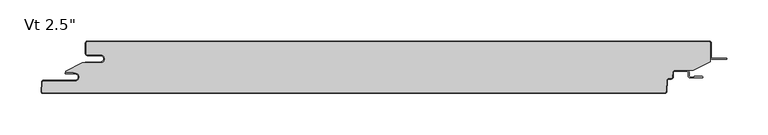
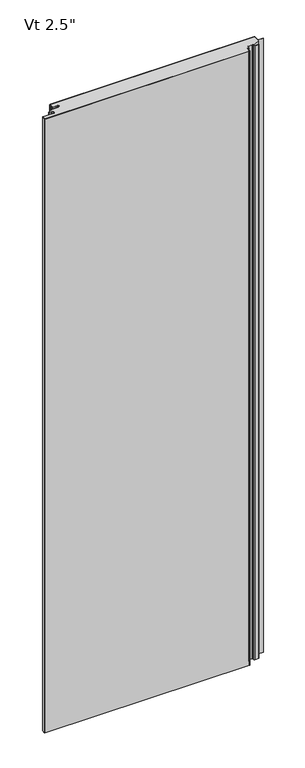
"""IFC4 building model written with IfcOpenShell, lengths in millimetres: plate geometry."""

from ifc_helpers import new_model, si_unit, point, frame, frame_2d, origin, origin_with_axes, place, context, project, spatial, polyline, circle_curve, ellipse_curve, trimmed, segment, composite_curve, outline, extrude, source, transform, mapped, element, save
from ifc_brep_helpers import plane_surface, cylinder_surface, revolved_surface, extruded_surface, advanced_brep


def plate_0934c7cf(model_context):
    return source(origin(), model_context, "Body", "SolidModel", [
        extrude(outline(composite_curve([segment(polyline([(-361.94375, -16.4625), (-377.81875, -16.4625)]), True, "CONTINUOUS"), segment(trimmed(circle_curve(frame_2d((-377.81875, -15.08125)), 1.38125), [point((-377.81875, -16.4625))], [point((-379.2, -15.08125))], False, "CARTESIAN"), True, "CONTINUOUS"), segment(polyline([(-379.2, -15.08125), (-379.2, -2.38125)]), True, "CONTINUOUS"), segment(trimmed(circle_curve(frame_2d((-377.81875, -2.38125)), 1.38125), [point((-379.2, -2.38125))], [point((-377.81875, -1.0))], False, "CARTESIAN"), True, "CONTINUOUS"), segment(polyline([(-377.81875, -1.0), (377.83125, -1.0)]), True, "CONTINUOUS"), segment(trimmed(circle_curve(frame_2d((377.83125, -2.38125)), 1.38125), [point((377.83125, -1.0))], [point((379.2125, -2.38125))], False, "CARTESIAN"), True, "CONTINUOUS"), segment(polyline([(379.2125, -2.38125), (379.2125, -24.9057308), (358.3955434, -35.5125), (335.9540783, -35.5125)]), True, "CONTINUOUS"), segment(trimmed(circle_curve(frame_2d((335.9540783, -38.1)), 2.5875), [point((335.9540783, -35.5125))], [point((333.3701244, -37.9645807))], True, "CARTESIAN"), True, "CONTINUOUS"), segment(polyline([(333.3701244, -37.9645807), (333.0680481, -43.728539)]), True, "CONTINUOUS"), segment(trimmed(circle_curve(frame_2d((331.6886911, -43.65625)), 1.38125), [point((333.0680481, -43.728539))], [point((331.6886911, -45.0375))], False, "CARTESIAN"), True, "CONTINUOUS"), segment(polyline([(331.6886911, -45.0375), (328.6448847, -45.0375)]), True, "CONTINUOUS"), segment(trimmed(circle_curve(frame_2d((328.6448847, -47.625)), 2.5875), [point((328.6448847, -45.0375))], [point((326.0609307, -47.4895807))], True, "CARTESIAN"), True, "CONTINUOUS"), segment(polyline([(326.0609307, -47.4895807), (325.3428677, -61.191039)]), True, "CONTINUOUS"), segment(trimmed(circle_curve(frame_2d((323.9635107, -61.11875)), 1.38125), [point((325.3428677, -61.191039))], [point((323.9635107, -62.5))], False, "CARTESIAN"), True, "CONTINUOUS"), segment(polyline([(323.9635107, -62.5), (-431.6799535, -62.5)]), True, "CONTINUOUS"), segment(trimmed(circle_curve(frame_2d((-431.6799535, -61.11875)), 1.38125), [point((-431.6799535, -62.5))], [point((-433.0593106, -61.046461))], False, "CARTESIAN"), True, "CONTINUOUS"), segment(polyline([(-433.0593106, -61.046461), (-432.4769291, -49.933961)]), True, "CONTINUOUS"), segment(trimmed(circle_curve(frame_2d((-431.0975721, -50.00625)), 1.38125), [point((-432.4769291, -49.933961))], [point((-431.0975721, -48.625))], False, "CARTESIAN"), True, "CONTINUOUS"), segment(polyline([(-431.0975721, -48.625), (-392.9142674, -48.625)]), True, "CONTINUOUS"), segment(trimmed(circle_curve(frame_2d((-392.9142674, -43.65625)), 4.96875), [point((-392.9142674, -48.625))], [point((-392.9142674, -38.6875))], True, "CARTESIAN"), True, "CONTINUOUS"), segment(polyline([(-392.9142674, -38.6875), (-394.5017674, -38.89375), (-394.5017674, -38.1), (-404.0125, -38.1), (-404.0125, -36.5326309), (-384.1260922, -26.4), (-361.94375, -26.4)]), True, "CONTINUOUS"), segment(trimmed(circle_curve(frame_2d((-361.94375, -21.43125)), 4.96875), [point((-361.94375, -26.4))], [point((-361.94375, -16.4625))], True, "CARTESIAN"), True, "CONTINUOUS")], self_intersect=False)), origin_with_axes(), (0.0, 0.0, 1.0), 2400.0),
        extrude(outline(composite_curve([segment(polyline([(-380.2, -25.4), (-361.94375, -25.4)]), True, "CONTINUOUS"), segment(trimmed(circle_curve(frame_2d((-361.94375, -21.43125)), 3.96875), [point((-361.94375, -25.4))], [point((-361.94375, -17.4625))], True, "CARTESIAN"), True, "CONTINUOUS"), segment(polyline([(-361.94375, -17.4625), (-377.81875, -17.4625)]), True, "CONTINUOUS"), segment(trimmed(circle_curve(frame_2d((-377.81875, -15.08125)), 2.38125), [point((-377.81875, -17.4625))], [point((-380.2, -15.08125))], False, "CARTESIAN"), True, "CONTINUOUS"), segment(polyline([(-380.2, -15.08125), (-380.2, -2.38125)]), True, "CONTINUOUS"), segment(trimmed(circle_curve(frame_2d((-377.81875, -2.38125)), 2.38125), [point((-380.2, -2.38125))], [point((-377.81875, 0.0))], False, "CARTESIAN"), True, "CONTINUOUS"), segment(polyline([(-377.81875, 0.0), (377.83125, 0.0)]), True, "CONTINUOUS"), segment(trimmed(circle_curve(frame_2d((377.83125, -2.38125)), 2.38125), [point((377.83125, 0.0))], [point((380.2125, -2.38125))], False, "CARTESIAN"), True, "CONTINUOUS"), segment(polyline([(380.2125, -2.38125), (380.2125, -19.446875)]), True, "CONTINUOUS"), segment(trimmed(circle_curve(frame_2d((381.8, -19.446875)), 1.5875), [point((380.2125, -19.446875))], [point((381.8, -21.034375))], True, "CARTESIAN"), True, "CONTINUOUS"), segment(polyline([(381.8, -21.034375), (399.2625, -21.034375), (399.2625, -22.034375), (381.8, -22.034375)]), True, "CONTINUOUS"), segment(trimmed(circle_curve(frame_2d((381.8, -19.446875)), 2.5875), [point((381.8, -22.034375))], [point((379.2125, -19.446875))], False, "CARTESIAN"), True, "CONTINUOUS"), segment(polyline([(379.2125, -19.446875), (379.2125, -2.38125)]), True, "CONTINUOUS"), segment(trimmed(circle_curve(frame_2d((377.83125, -2.38125)), 1.38125), [point((379.2125, -2.38125))], [point((377.83125, -1.0))], True, "CARTESIAN"), True, "CONTINUOUS"), segment(polyline([(377.83125, -1.0), (-377.81875, -1.0)]), True, "CONTINUOUS"), segment(trimmed(circle_curve(frame_2d((-377.81875, -2.38125)), 1.38125), [point((-377.81875, -1.0))], [point((-379.2, -2.38125))], True, "CARTESIAN"), True, "CONTINUOUS"), segment(polyline([(-379.2, -2.38125), (-379.2, -15.08125)]), True, "CONTINUOUS"), segment(trimmed(circle_curve(frame_2d((-377.81875, -15.08125)), 1.38125), [point((-379.2, -15.08125))], [point((-377.81875, -16.4625))], True, "CARTESIAN"), True, "CONTINUOUS"), segment(polyline([(-377.81875, -16.4625), (-361.94375, -16.4625)]), True, "CONTINUOUS"), segment(trimmed(circle_curve(frame_2d((-361.94375, -21.43125)), 4.96875), [point((-361.94375, -16.4625))], [point((-361.94375, -26.4))], False, "CARTESIAN"), True, "CONTINUOUS"), segment(polyline([(-361.94375, -26.4), (-380.2, -26.4), (-380.2, -25.4)]), True, "CONTINUOUS")], self_intersect=False)), origin_with_axes(), (0.0, 0.0, 1.0), 2400.0),
        advanced_brep(
        [(-404.2252049, -38.1, 2400.0), (-404.2252049, -39.6875, 2400.0), (-392.9142674, -39.6875, 2400.0), (-392.9142674, -47.625, 2400.0), (-431.0975721, -47.625, 2400.0), (-433.4755586, -49.881625, 2400.0), (-434.0579401, -60.994125, 2400.0), (-431.6799535, -63.5, 2400.0), (323.9635107, -63.5, 2400.0), (326.3414973, -61.243375, 2400.0), (327.0595603, -47.5419167, 2400.0), (328.6448847, -46.0375, 2400.0), (331.6886911, -46.0375, 2400.0), (334.0666776, -43.780875, 2400.0), (334.3687539, -38.0169167, 2400.0), (335.9540783, -36.5125, 2400.0), (350.8294826, -36.5125, 2400.0), (352.4169826, -38.1, 2400.0), (352.4169826, -42.2671875, 2400.0), (354.7982326, -44.6484375, 2400.0), (369.2898532, -44.6484375, 2400.0), (369.2898532, -42.8546875, 2400.0), (359.5607326, -42.8546875, 2400.0), (359.5607326, -43.6484375, 2400.0), (354.7982326, -43.6484375, 2400.0), (353.4169826, -42.2671875, 2400.0), (353.4169826, -38.1, 2400.0), (350.8294826, -35.5125, 2400.0), (335.9540783, -35.5125, 2400.0), (333.3701244, -37.9645807, 2400.0), (333.0680481, -43.728539, 2400.0), (331.6886911, -45.0375, 2400.0), (328.6448847, -45.0375, 2400.0), (326.0609307, -47.4895807, 2400.0), (325.3428677, -61.191039, 2400.0), (323.9635107, -62.5, 2400.0), (-431.6799535, -62.5, 2400.0), (-433.0593106, -61.046461, 2400.0), (-432.4769291, -49.933961, 2400.0), (-431.0975721, -48.625, 2400.0), (-392.9142674, -48.625, 2400.0), (-392.9142674, -38.6875, 2400.0), (-394.5017674, -38.89375, 2400.0), (-394.5017674, -38.1, 2400.0), (-404.2252049, -38.1, 0.0), (-394.5017674, -38.1, 0.0), (-394.5017674, -38.89375, 0.0), (-392.9142674, -38.6875, 0.0), (-392.9142674, -48.625, 0.0), (-431.0975721, -48.625, 0.0), (-432.4769291, -49.933961, 0.0), (-433.0593106, -61.046461, 0.0), (-431.6799535, -62.5, 0.0), (323.9635107, -62.5, 0.0), (325.3428677, -61.191039, 0.0), (326.0609307, -47.4895807, 0.0), (328.6448847, -45.0375, 0.0), (331.6886911, -45.0375, 0.0), (333.0680481, -43.728539, 0.0), (333.3701244, -37.9645807, 0.0), (335.9540783, -35.5125, 0.0), (350.8294826, -35.5125, 0.0), (353.4169826, -38.1, 0.0), (353.4169826, -42.2671875, 0.0), (354.7982326, -43.6484375, 0.0), (359.5607326, -43.6484375, 0.0), (359.5607326, -42.8546875, 0.0), (369.2898532, -42.8546875, 0.0), (369.2898532, -44.6484375, 0.0), (354.7982326, -44.6484375, 0.0), (352.4169826, -42.2671875, 0.0), (352.4169826, -38.1, 0.0), (350.8294826, -36.5125, 0.0), (335.9540783, -36.5125, 0.0), (334.3687539, -38.0169167, 0.0), (334.0666776, -43.780875, 0.0), (331.6886911, -46.0375, 0.0), (328.6448847, -46.0375, 0.0), (327.0595603, -47.5419167, 0.0), (326.3414973, -61.243375, 0.0), (323.9635107, -63.5, 0.0), (-431.6799535, -63.5, 0.0), (-434.0579401, -60.994125, 0.0), (-433.4755586, -49.881625, 0.0), (-431.0975721, -47.625, 0.0), (-392.9142674, -47.625, 0.0), (-392.9142674, -39.6875, 0.0), (-404.2252049, -39.6875, 0.0)],
        [
            (0, 1, circle_curve(frame((-404.2252049, -38.89375, 2400.0), z_axis=(0.0, 0.0, 1.0), x_axis=(1.0, 0.0, 0.0)), 0.79375)),
            (1, 2),
            (2, 3, circle_curve(frame((-392.9142674, -43.65625, 2400.0), z_axis=(0.0, 0.0, -1.0), x_axis=(1.0, 0.0, 0.0)), 3.96875)),
            (3, 4),
            (4, 5, circle_curve(frame((-431.0975721, -50.00625, 2400.0), z_axis=(0.0, 0.0, 1.0), x_axis=(1.0, 0.0, 0.0)), 2.38125)),
            (5, 6),
            (6, 7, circle_curve(frame((-431.6799535, -61.11875, 2400.0), z_axis=(0.0, 0.0, 1.0), x_axis=(1.0, 0.0, 0.0)), 2.38125)),
            (7, 8),
            (8, 9, circle_curve(frame((323.9635107, -61.11875, 2400.0), z_axis=(0.0, 0.0, 1.0), x_axis=(1.0, 0.0, 0.0)), 2.38125)),
            (9, 10),
            (10, 11, circle_curve(frame((328.6448847, -47.625, 2400.0), z_axis=(0.0, 0.0, -1.0), x_axis=(1.0, 0.0, 0.0)), 1.5875)),
            (11, 12),
            (12, 13, circle_curve(frame((331.6886911, -43.65625, 2400.0), z_axis=(0.0, 0.0, 1.0), x_axis=(1.0, 0.0, 0.0)), 2.38125)),
            (13, 14),
            (14, 15, circle_curve(frame((335.9540783, -38.1, 2400.0), z_axis=(0.0, 0.0, -1.0), x_axis=(1.0, 0.0, 0.0)), 1.5875)),
            (15, 16),
            (16, 17, circle_curve(frame((350.8294826, -38.1, 2400.0), z_axis=(0.0, 0.0, -1.0), x_axis=(1.0, 0.0, 0.0)), 1.5875)),
            (17, 18),
            (18, 19, circle_curve(frame((354.7982326, -42.2671875, 2400.0), z_axis=(0.0, 0.0, 1.0), x_axis=(1.0, 0.0, 0.0)), 2.38125)),
            (19, 20),
            (20, 21, ellipse_curve(frame((369.2898532, -43.7515625, 2400.0), z_axis=(0.0, 0.0, 1.0), x_axis=(0.0, 1.0, 0.0)), 0.896875, 0.7852275)),
            (21, 22),
            (22, 23),
            (23, 24),
            (24, 25, circle_curve(frame((354.7982326, -42.2671875, 2400.0), z_axis=(0.0, 0.0, -1.0), x_axis=(1.0, 0.0, 0.0)), 1.38125)),
            (25, 26),
            (26, 27, circle_curve(frame((350.8294826, -38.1, 2400.0), z_axis=(0.0, 0.0, 1.0), x_axis=(1.0, 0.0, 0.0)), 2.5875)),
            (27, 28),
            (28, 29, circle_curve(frame((335.9540783, -38.1, 2400.0), z_axis=(0.0, 0.0, 1.0), x_axis=(1.0, 0.0, 0.0)), 2.5875)),
            (29, 30),
            (30, 31, circle_curve(frame((331.6886911, -43.65625, 2400.0), z_axis=(0.0, 0.0, -1.0), x_axis=(1.0, 0.0, 0.0)), 1.38125)),
            (31, 32),
            (32, 33, circle_curve(frame((328.6448847, -47.625, 2400.0), z_axis=(0.0, 0.0, 1.0), x_axis=(1.0, 0.0, 0.0)), 2.5875)),
            (33, 34),
            (34, 35, circle_curve(frame((323.9635107, -61.11875, 2400.0), z_axis=(0.0, 0.0, -1.0), x_axis=(1.0, 0.0, 0.0)), 1.38125)),
            (35, 36),
            (36, 37, circle_curve(frame((-431.6799535, -61.11875, 2400.0), z_axis=(0.0, 0.0, -1.0), x_axis=(1.0, 0.0, 0.0)), 1.38125)),
            (37, 38),
            (38, 39, circle_curve(frame((-431.0975721, -50.00625, 2400.0), z_axis=(0.0, 0.0, -1.0), x_axis=(1.0, 0.0, 0.0)), 1.38125)),
            (39, 40),
            (40, 41, circle_curve(frame((-392.9142674, -43.65625, 2400.0), z_axis=(0.0, 0.0, 1.0), x_axis=(1.0, 0.0, 0.0)), 4.96875)),
            (41, 42),
            (42, 43),
            (43, 0),
            (44, 45),
            (45, 46),
            (46, 47),
            (47, 48, circle_curve(frame((-392.9142674, -43.65625, 0.0), z_axis=(0.0, 0.0, -1.0), x_axis=(1.0, 0.0, 0.0)), 4.96875)),
            (48, 49),
            (49, 50, circle_curve(frame((-431.0975721, -50.00625, 0.0), z_axis=(0.0, 0.0, 1.0), x_axis=(1.0, 0.0, 0.0)), 1.38125)),
            (50, 51),
            (51, 52, circle_curve(frame((-431.6799535, -61.11875, 0.0), z_axis=(0.0, 0.0, 1.0), x_axis=(1.0, 0.0, 0.0)), 1.38125)),
            (52, 53),
            (53, 54, circle_curve(frame((323.9635107, -61.11875, 0.0), z_axis=(0.0, 0.0, 1.0), x_axis=(1.0, 0.0, 0.0)), 1.38125)),
            (54, 55),
            (55, 56, circle_curve(frame((328.6448847, -47.625, 0.0), z_axis=(0.0, 0.0, -1.0), x_axis=(1.0, 0.0, 0.0)), 2.5875)),
            (56, 57),
            (57, 58, circle_curve(frame((331.6886911, -43.65625, 0.0), z_axis=(0.0, 0.0, 1.0), x_axis=(1.0, 0.0, 0.0)), 1.38125)),
            (58, 59),
            (59, 60, circle_curve(frame((335.9540783, -38.1, 0.0), z_axis=(0.0, 0.0, -1.0), x_axis=(1.0, 0.0, 0.0)), 2.5875)),
            (60, 61),
            (61, 62, circle_curve(frame((350.8294826, -38.1, 0.0), z_axis=(0.0, 0.0, -1.0), x_axis=(1.0, 0.0, 0.0)), 2.5875)),
            (62, 63),
            (63, 64, circle_curve(frame((354.7982326, -42.2671875, 0.0), z_axis=(0.0, 0.0, 1.0), x_axis=(1.0, 0.0, 0.0)), 1.38125)),
            (64, 65),
            (65, 66),
            (66, 67),
            (67, 68, ellipse_curve(frame((369.2898532, -43.7515625, 0.0), z_axis=(0.0, 0.0, -1.0), x_axis=(0.0, 1.0, 0.0)), 0.896875, 0.7852275)),
            (68, 69),
            (69, 70, circle_curve(frame((354.7982326, -42.2671875, 0.0), z_axis=(0.0, 0.0, -1.0), x_axis=(1.0, 0.0, 0.0)), 2.38125)),
            (70, 71),
            (71, 72, circle_curve(frame((350.8294826, -38.1, 0.0), z_axis=(0.0, 0.0, 1.0), x_axis=(1.0, 0.0, 0.0)), 1.5875)),
            (72, 73),
            (73, 74, circle_curve(frame((335.9540783, -38.1, 0.0), z_axis=(0.0, 0.0, 1.0), x_axis=(1.0, 0.0, 0.0)), 1.5875)),
            (74, 75),
            (75, 76, circle_curve(frame((331.6886911, -43.65625, 0.0), z_axis=(0.0, 0.0, -1.0), x_axis=(1.0, 0.0, 0.0)), 2.38125)),
            (76, 77),
            (77, 78, circle_curve(frame((328.6448847, -47.625, 0.0), z_axis=(0.0, 0.0, 1.0), x_axis=(1.0, 0.0, 0.0)), 1.5875)),
            (78, 79),
            (79, 80, circle_curve(frame((323.9635107, -61.11875, 0.0), z_axis=(0.0, 0.0, -1.0), x_axis=(1.0, 0.0, 0.0)), 2.38125)),
            (80, 81),
            (81, 82, circle_curve(frame((-431.6799535, -61.11875, 0.0), z_axis=(0.0, 0.0, -1.0), x_axis=(1.0, 0.0, 0.0)), 2.38125)),
            (82, 83),
            (83, 84, circle_curve(frame((-431.0975721, -50.00625, 0.0), z_axis=(0.0, 0.0, -1.0), x_axis=(1.0, 0.0, 0.0)), 2.38125)),
            (84, 85),
            (85, 86, circle_curve(frame((-392.9142674, -43.65625, 0.0), z_axis=(0.0, 0.0, 1.0), x_axis=(1.0, 0.0, 0.0)), 3.96875)),
            (86, 87),
            (87, 44, circle_curve(frame((-404.2252049, -38.89375, 0.0), z_axis=(0.0, 0.0, -1.0), x_axis=(1.0, 0.0, 0.0)), 0.79375)),
            (20, 68),
            (67, 21),
            (66, 22),
            (65, 23),
            (41, 47),
            (46, 42),
            (45, 43),
            (40, 48),
            (39, 49),
            (38, 50),
            (37, 51),
            (33, 55),
            (54, 34),
            (32, 56),
            (31, 57),
            (30, 58),
            (29, 59),
            (28, 60),
            (64, 24),
            (63, 25),
            (62, 26),
            (61, 27),
            (18, 70),
            (69, 19),
            (17, 71),
            (16, 72),
            (15, 73),
            (14, 74),
            (13, 75),
            (12, 76),
            (11, 77),
            (10, 78),
            (9, 79),
            (5, 83),
            (82, 6),
            (4, 84),
            (3, 85),
            (2, 86),
            (1, 87),
            (0, 44),
            (36, 52),
            (35, 53),
            (8, 80),
            (7, 81),
        ],
        [
            plane_surface(frame((0.00625, -63.5, 2400.0), z_axis=(0.0, 0.0, 1.0), x_axis=(0.0, -1.0, 0.0))),
            plane_surface(frame((0.00625, -63.5, 0.0), z_axis=(0.0, 0.0, -1.0), x_axis=(0.0, -1.0, 0.0))),
            extruded_surface(trimmed(ellipse_curve(frame((369.2898532, -43.7515625, 2400.0), z_axis=(0.0, 0.0, -1.0), x_axis=(0.0, 1.0, 0.0)), 0.896875, 0.7852275), [point((369.2898532, -42.8546875, 2400.0))], [point((369.2898532, -44.6484375, 2400.0))], True, "CARTESIAN"), (0.0, 0.0, -2400.0), 2400.0),
            plane_surface(frame((359.5607326, -42.8546875, 2400.0), z_axis=(0.0, 1.0, 0.0), x_axis=(0.0, 0.0, -1.0))),
            plane_surface(frame((359.5607326, -43.6484375, 2400.0), z_axis=(-1.0, 0.0, 0.0), x_axis=(0.0, 0.0, -1.0))),
            plane_surface(frame((-394.5017674, -38.89375, 2400.0), z_axis=(-0.12883844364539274, 0.9916655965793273, 0.0), x_axis=(0.0, 0.0, -1.0))),
            plane_surface(frame((-394.5017674, -38.1, 2400.0), z_axis=(1.0, 0.0, 0.0), x_axis=(0.0, 0.0, -1.0))),
            cylinder_surface(frame((-392.9142674, -43.65625, 2400.0), z_axis=(0.0, 0.0, 1.0), x_axis=(1.0, 0.0, 0.0)), 4.96875),
            plane_surface(frame((-392.9142674, -48.625, 2400.0), z_axis=(0.0, -1.0, 0.0), x_axis=(0.0, 0.0, -1.0))),
            revolved_surface(polyline([(-429.71632209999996, -50.00625, 0.0), (-429.71632209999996, -50.00625, 2400.0)]), (-431.0975721, -50.00625, 2400.0), (0.0, 0.0, -1.0)),
            plane_surface(frame((-432.4769291, -49.933961, 2400.0), z_axis=(0.9986295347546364, -0.05233595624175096, 0.0), x_axis=(0.0, 0.0, -1.0))),
            plane_surface(frame((325.3428677, -61.191039, 2400.0), z_axis=(-0.9986295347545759, 0.05233595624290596, 0.0), x_axis=(0.0, 0.0, -1.0))),
            cylinder_surface(frame((328.6448847, -47.625, 2400.0), z_axis=(0.0, 0.0, 1.0), x_axis=(1.0, 0.0, 0.0)), 2.5875),
            plane_surface(frame((328.6448847, -45.0375, 2400.0), z_axis=(0.0, 1.0, 0.0), x_axis=(0.0, 0.0, -1.0))),
            revolved_surface(polyline([(333.06994110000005, -43.65625, 0.0), (333.06994110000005, -43.65625, 2400.0)]), (331.6886911, -43.65625, 2400.0), (0.0, 0.0, -1.0)),
            plane_surface(frame((333.0680481, -43.728539, 2400.0), z_axis=(-0.998629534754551, 0.05233595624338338, 0.0), x_axis=(0.0, 0.0, -1.0))),
            cylinder_surface(frame((335.9540783, -38.1, 2400.0), z_axis=(0.0, 0.0, 1.0), x_axis=(1.0, 0.0, 0.0)), 2.5875),
            plane_surface(frame((354.7982326, -43.6484375, 2400.0), z_axis=(0.0, 1.0, 0.0), x_axis=(0.0, 0.0, -1.0))),
            revolved_surface(polyline([(356.17948260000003, -42.2671875, 0.0), (356.17948260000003, -42.2671875, 2400.0)]), (354.7982326, -42.2671875, 2400.0), (0.0, 0.0, -1.0)),
            plane_surface(frame((353.4169826, -38.1, 2400.0), z_axis=(1.0, 0.0, 0.0), x_axis=(0.0, 0.0, -1.0))),
            cylinder_surface(frame((350.8294826, -38.1, 2400.0), z_axis=(0.0, 0.0, 1.0), x_axis=(1.0, 0.0, 0.0)), 2.5875),
            plane_surface(frame((335.9540783, -35.5125, 2400.0), z_axis=(0.0, 1.0, 0.0), x_axis=(0.0, 0.0, -1.0))),
            cylinder_surface(frame((354.7982326, -42.2671875, 2400.0), z_axis=(0.0, 0.0, 1.0), x_axis=(1.0, 0.0, 0.0)), 2.38125),
            plane_surface(frame((352.4169826, -42.2671875, 2400.0), z_axis=(-1.0, 0.0, 0.0), x_axis=(0.0, 0.0, -1.0))),
            revolved_surface(polyline([(352.4169826, -38.1, 0.0), (352.4169826, -38.1, 2400.0)]), (350.8294826, -38.1, 2400.0), (0.0, 0.0, -1.0)),
            plane_surface(frame((350.8294826, -36.5125, 2400.0), z_axis=(0.0, -1.0, 0.0), x_axis=(0.0, 0.0, -1.0))),
            revolved_surface(polyline([(337.54157829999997, -38.1, 0.0), (337.54157829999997, -38.1, 2400.0)]), (335.9540783, -38.1, 2400.0), (0.0, 0.0, -1.0)),
            plane_surface(frame((334.3687539, -38.0169167, 2400.0), z_axis=(0.9986295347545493, -0.05233595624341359, 0.0), x_axis=(0.0, 0.0, -1.0))),
            cylinder_surface(frame((331.6886911, -43.65625, 2400.0), z_axis=(0.0, 0.0, 1.0), x_axis=(1.0, 0.0, 0.0)), 2.38125),
            plane_surface(frame((331.6886911, -46.0375, 2400.0), z_axis=(0.0, -1.0, 0.0), x_axis=(0.0, 0.0, -1.0))),
            revolved_surface(polyline([(330.23238469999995, -47.625, 0.0), (330.23238469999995, -47.625, 2400.0)]), (328.6448847, -47.625, 2400.0), (0.0, 0.0, -1.0)),
            plane_surface(frame((327.0595603, -47.5419167, 2400.0), z_axis=(0.9986295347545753, -0.052335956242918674, 0.0), x_axis=(0.0, 0.0, -1.0))),
            plane_surface(frame((-434.0579401, -60.994125, 2400.0), z_axis=(-0.9986295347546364, 0.05233595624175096, 0.0), x_axis=(0.0, 0.0, -1.0))),
            cylinder_surface(frame((-431.0975721, -50.00625, 2400.0), z_axis=(0.0, 0.0, 1.0), x_axis=(1.0, 0.0, 0.0)), 2.38125),
            plane_surface(frame((-431.0975721, -47.625, 2400.0), z_axis=(0.0, 1.0, 0.0), x_axis=(0.0, 0.0, -1.0))),
            revolved_surface(polyline([(-388.9455174, -43.65625, 0.0), (-388.9455174, -43.65625, 2400.0)]), (-392.9142674, -43.65625, 2400.0), (0.0, 0.0, -1.0)),
            plane_surface(frame((-392.9142674, -39.6875, 2400.0), z_axis=(0.0, -1.0, 0.0), x_axis=(0.0, 0.0, -1.0))),
            cylinder_surface(frame((-404.2252049, -38.89375, 2400.0), z_axis=(0.0, 0.0, 1.0), x_axis=(1.0, 0.0, 0.0)), 0.79375),
            plane_surface(frame((-404.2252049, -38.1, 2400.0), z_axis=(0.0, 1.0, 0.0), x_axis=(0.0, 0.0, -1.0))),
            revolved_surface(polyline([(-430.2987035, -61.11875, 0.0), (-430.2987035, -61.11875, 2400.0)]), (-431.6799535, -61.11875, 2400.0), (0.0, 0.0, -1.0)),
            plane_surface(frame((-431.6799535, -62.5, 2400.0), z_axis=(0.0, 1.0, 0.0), x_axis=(0.0, 0.0, -1.0))),
            revolved_surface(polyline([(325.3447607, -61.11875, 0.0), (325.3447607, -61.11875, 2400.0)]), (323.9635107, -61.11875, 2400.0), (0.0, 0.0, -1.0)),
            plane_surface(frame((369.2898532, -44.6484375, 2400.0), z_axis=(0.0, -1.0, 0.0), x_axis=(0.0, 0.0, -1.0))),
            cylinder_surface(frame((323.9635107, -61.11875, 2400.0), z_axis=(0.0, 0.0, 1.0), x_axis=(1.0, 0.0, 0.0)), 2.38125),
            plane_surface(frame((323.9635107, -63.5, 2400.0), z_axis=(0.0, -1.0, 0.0), x_axis=(0.0, 0.0, -1.0))),
            cylinder_surface(frame((-431.6799535, -61.11875, 2400.0), z_axis=(0.0, 0.0, 1.0), x_axis=(1.0, 0.0, 0.0)), 2.38125),
        ],
        [
            (0, [[1, 2, 3, 4, 5, 6, 7, 8, 9, 10, 11, 12, 13, 14, 15, 16, 17, 18, 19, 20, 21, 22, 23, 24, 25, 26, 27, 28, 29, 30, 31, 32, 33, 34, 35, 36, 37, 38, 39, 40, 41, 42, 43, 44]]),
            (1, [[45, 46, 47, 48, 49, 50, 51, 52, 53, 54, 55, 56, 57, 58, 59, 60, 61, 62, 63, 64, 65, 66, 67, 68, 69, 70, 71, 72, 73, 74, 75, 76, 77, 78, 79, 80, 81, 82, 83, 84, 85, 86, 87, 88]]),
            (2, [[89, -68, 90, -21]]),
            (3, [[-90, -67, 91, -22]]),
            (4, [[-91, -66, 92, -23]]),
            (5, [[93, -47, 94, -42]]),
            (6, [[-94, -46, 95, -43]]),
            (7, [[96, -48, -93, -41]]),
            (8, [[97, -49, -96, -40]]),
            (9, [[98, -50, -97, -39]]),
            (10, [[99, -51, -98, -38]]),
            (11, [[100, -55, 101, -34]]),
            (12, [[102, -56, -100, -33]]),
            (13, [[103, -57, -102, -32]]),
            (14, [[104, -58, -103, -31]]),
            (15, [[105, -59, -104, -30]]),
            (16, [[106, -60, -105, -29]]),
            (17, [[-92, -65, 107, -24]]),
            (18, [[-107, -64, 108, -25]]),
            (19, [[-108, -63, 109, -26]]),
            (20, [[-109, -62, 110, -27]]),
            (21, [[-110, -61, -106, -28]]),
            (22, [[111, -70, 112, -19]]),
            (23, [[113, -71, -111, -18]]),
            (24, [[114, -72, -113, -17]]),
            (25, [[115, -73, -114, -16]]),
            (26, [[116, -74, -115, -15]]),
            (27, [[117, -75, -116, -14]]),
            (28, [[118, -76, -117, -13]]),
            (29, [[119, -77, -118, -12]]),
            (30, [[120, -78, -119, -11]]),
            (31, [[121, -79, -120, -10]]),
            (32, [[122, -83, 123, -6]]),
            (33, [[124, -84, -122, -5]]),
            (34, [[125, -85, -124, -4]]),
            (35, [[126, -86, -125, -3]]),
            (36, [[127, -87, -126, -2]]),
            (37, [[128, -88, -127, -1]]),
            (38, [[-95, -45, -128, -44]]),
            (39, [[129, -52, -99, -37]]),
            (40, [[130, -53, -129, -36]]),
            (41, [[-101, -54, -130, -35]]),
            (42, [[-112, -69, -89, -20]]),
            (43, [[131, -80, -121, -9]]),
            (44, [[132, -81, -131, -8]]),
            (45, [[-123, -82, -132, -7]]),
        ],
    ),
    ])


if __name__ == "__main__":
    model = new_model("IFC4")
    model_context = context("Model", 3, world=origin())
    ifc_project = project(units=[si_unit("LENGTHUNIT", "METRE", prefix="MILLI")], contexts=[model_context])
    site = spatial("IfcSite", under=ifc_project)
    building = spatial("IfcBuilding", under=site)
    placement = place(None, origin())
    plate_shape = plate_0934c7cf(model_context)
    element("IfcPlate", 1, ObjectType="KIP-30-DWTR-R19-CP-Vt-F : Vt 2.5\"", at=placement, inside=building, context=model_context, shape_type="MappedRepresentation", body=[
        mapped(plate_shape, transform((0.0, 0.0, 0.0), x_axis=(1.0, 0.0, 0.0), y_axis=(0.0, 1.0, 0.0), z_axis=(0.0, 0.0, 1.0))),
    ])
    save(model, "model.ifc")
